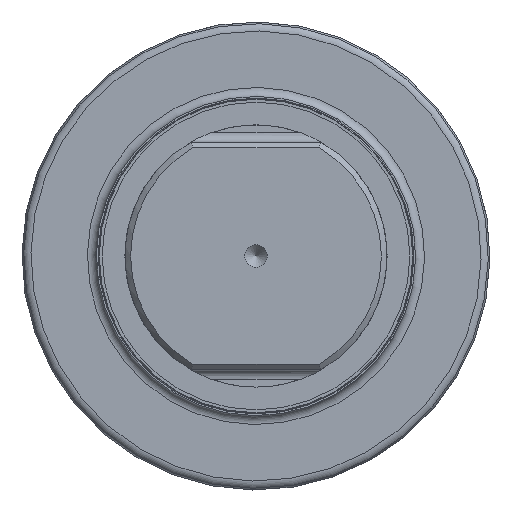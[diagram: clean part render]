
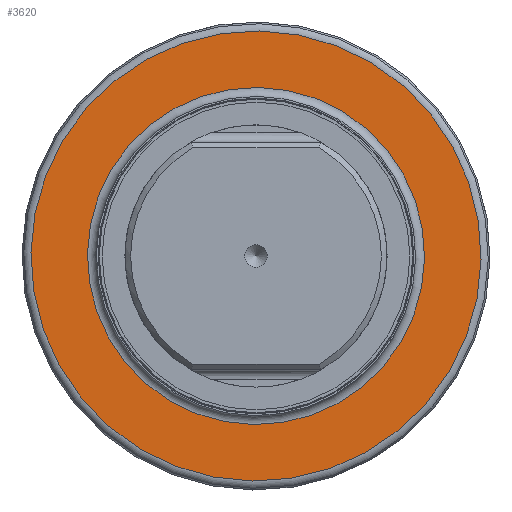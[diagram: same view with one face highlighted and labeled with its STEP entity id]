
A CAD part, left-side view. The second image highlights one B-rep face of the part: STEP entity #3620.
In plain terms, the highlighted planar face has unit normal (-1, 0, 0).
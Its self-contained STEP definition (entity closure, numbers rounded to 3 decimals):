
#50=FACE_BOUND('',#892,.T.);
#463=PLANE('',#4151);
#641=FACE_OUTER_BOUND('',#891,.T.);
#891=EDGE_LOOP('',(#2920,#2921));
#892=EDGE_LOOP('',(#2922,#2923));
#1302=CIRCLE('',#4022,14.787);
#1303=CIRCLE('',#4023,14.787);
#1308=CIRCLE('',#4029,19.748);
#1309=CIRCLE('',#4030,19.748);
#1658=VERTEX_POINT('',#6232);
#1659=VERTEX_POINT('',#6233);
#1662=VERTEX_POINT('',#6242);
#1663=VERTEX_POINT('',#6244);
#2107=EDGE_CURVE('',#1658,#1659,#1302,.T.);
#2108=EDGE_CURVE('',#1659,#1658,#1303,.T.);
#2113=EDGE_CURVE('',#1662,#1663,#1308,.T.);
#2114=EDGE_CURVE('',#1663,#1662,#1309,.T.);
#2920=ORIENTED_EDGE('',*,*,#2114,.F.);
#2921=ORIENTED_EDGE('',*,*,#2113,.F.);
#2922=ORIENTED_EDGE('',*,*,#2107,.T.);
#2923=ORIENTED_EDGE('',*,*,#2108,.T.);
#3620=ADVANCED_FACE('',(#641,#50),#463,.F.);
#4022=AXIS2_PLACEMENT_3D('',#6234,#4914,#4915);
#4023=AXIS2_PLACEMENT_3D('',#6235,#4916,#4917);
#4029=AXIS2_PLACEMENT_3D('',#6245,#4928,#4929);
#4030=AXIS2_PLACEMENT_3D('',#6246,#4930,#4931);
#4151=AXIS2_PLACEMENT_3D('',#6430,#5175,#5176);
#4914=DIRECTION('center_axis',(1.,0.,0.));
#4915=DIRECTION('ref_axis',(0.,-0.987,0.159));
#4916=DIRECTION('center_axis',(1.,0.,0.));
#4917=DIRECTION('ref_axis',(0.,-0.987,0.159));
#4928=DIRECTION('center_axis',(1.,0.,0.));
#4929=DIRECTION('ref_axis',(0.,-0.987,0.159));
#4930=DIRECTION('center_axis',(1.,0.,0.));
#4931=DIRECTION('ref_axis',(0.,-0.987,0.159));
#5175=DIRECTION('center_axis',(1.,0.,0.));
#5176=DIRECTION('ref_axis',(0.,-0.987,0.159));
#6232=CARTESIAN_POINT('',(22.789,3.471,-110.615));
#6233=CARTESIAN_POINT('',(22.789,32.671,-115.306));
#6234=CARTESIAN_POINT('Origin',(22.789,18.071,-112.961));
#6235=CARTESIAN_POINT('Origin',(22.789,18.071,-112.961));
#6242=CARTESIAN_POINT('',(22.789,37.569,-116.093));
#6244=CARTESIAN_POINT('',(22.789,-1.426,-109.828));
#6245=CARTESIAN_POINT('Origin',(22.789,18.071,-112.961));
#6246=CARTESIAN_POINT('Origin',(22.789,18.071,-112.961));
#6430=CARTESIAN_POINT('Origin',(22.789,15.726,-127.561));
